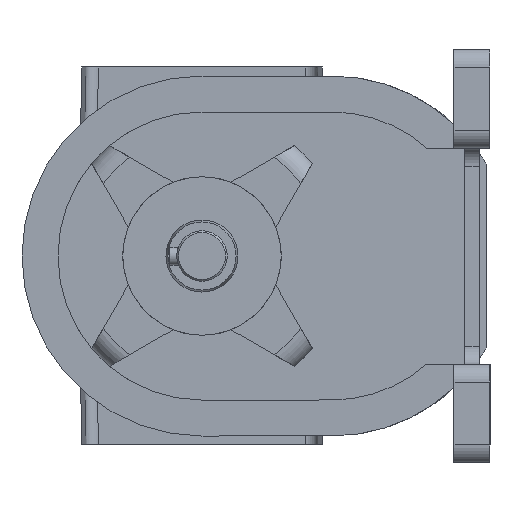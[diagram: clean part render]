
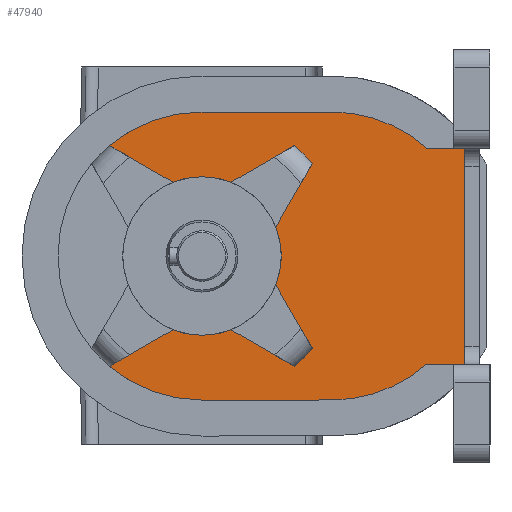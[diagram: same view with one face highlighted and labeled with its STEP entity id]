
A CAD part, left-side view. The second image highlights one B-rep face of the part: STEP entity #47940.
In plain terms, the highlighted planar face has unit normal (-1, 0, 0) as drawn and (0, 1, -0.026) by its records, which use the part's own axes.
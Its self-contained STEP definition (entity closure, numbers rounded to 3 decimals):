
#41410=CARTESIAN_POINT('',(-94.,680.965,
-210.424));
#41420=VERTEX_POINT('',#41410);
#43360=CARTESIAN_POINT('',(-94.,680.886,
-213.423));
#43370=VERTEX_POINT('',#43360);
#43700=CARTESIAN_POINT('',(-34.,680.886,
-213.423));
#43710=VERTEX_POINT('',#43700);
#43740=CARTESIAN_POINT('',(-75.28,680.886,
-213.423));
#43750=DIRECTION('',(-1.,0.,0.));
#43760=VECTOR('',#43750,1.);
#43770=LINE('',#43740,#43760);
#43780=EDGE_CURVE('',#43710,#43370,#43770,.T.);
#44140=CARTESIAN_POINT('',(-33.333,682.125,
-166.121));
#44150=VERTEX_POINT('',#44140);
#44330=CARTESIAN_POINT('',(-38.318,681.995,
-171.104));
#44340=VERTEX_POINT('',#44330);
#44370=CARTESIAN_POINT('',(-64.,682.797,
-140.448));
#44380=DIRECTION('',(0.,1.,
-0.026));
#44390=DIRECTION('',(-1.,0.,0.));
#44400=AXIS2_PLACEMENT_3D('',#44370,#44380,#44390);
#44410=CIRCLE('',#44400,40.);
#44420=EDGE_CURVE('',#44150,#44340,#44410,.T.);
#45750=CARTESIAN_POINT('',(-55.963,682.261,
-160.92));
#45760=VERTEX_POINT('',#45750);
#45790=CARTESIAN_POINT('',(-75.28,682.553,
-149.772));
#45800=DIRECTION('',(-0.866,0.013,
0.5));
#45810=VECTOR('',#45800,1.);
#45820=LINE('',#45790,#45810);
#45830=EDGE_CURVE('',#44340,#45760,#45820,.T.);
#46220=CARTESIAN_POINT('',(-54.5,682.121,
-166.283));
#46230=DIRECTION('',(0.,1.,
-0.026));
#46240=DIRECTION('',(-1.,0.,0.));
#46250=AXIS2_PLACEMENT_3D('',#46220,#46230,#46240);
#46260=PLANE('',#46250);
#46270=ORIENTED_EDGE('',*,*,#44420,.F.);
#46280=ORIENTED_EDGE('',*,*,#45830,.F.);
#46290=CARTESIAN_POINT('',(-64.,682.797,
-140.448));
#46300=DIRECTION('',(0.,1.,
-0.026));
#46310=DIRECTION('',(-1.,0.,0.));
#46320=AXIS2_PLACEMENT_3D('',#46290,#46300,#46310);
#46330=CIRCLE('',#46320,22.);
#46340=CARTESIAN_POINT('',(-72.037,682.261,
-160.92));
#46350=VERTEX_POINT('',#46340);
#46360=EDGE_CURVE('',#45760,#46350,#46330,.T.);
#46370=ORIENTED_EDGE('',*,*,#46360,.F.);
#46380=CARTESIAN_POINT('',(-75.28,682.212,
-162.792));
#46390=DIRECTION('',(-0.866,-0.013,
-0.5));
#46400=VECTOR('',#46390,1.);
#46410=LINE('',#46380,#46400);
#46420=CARTESIAN_POINT('',(-89.682,681.995,
-171.104));
#46430=VERTEX_POINT('',#46420);
#46440=EDGE_CURVE('',#46350,#46430,#46410,.T.);
#46450=ORIENTED_EDGE('',*,*,#46440,.F.);
#46460=CARTESIAN_POINT('',(-64.,682.797,
-140.448));
#46470=DIRECTION('',(0.,1.,
-0.026));
#46480=DIRECTION('',(-1.,0.,0.));
#46490=AXIS2_PLACEMENT_3D('',#46460,#46470,#46480);
#46500=CIRCLE('',#46490,40.);
#46510=CARTESIAN_POINT('',(-94.667,682.125,
-166.121));
#46520=VERTEX_POINT('',#46510);
#46530=EDGE_CURVE('',#46430,#46520,#46500,.T.);
#46540=ORIENTED_EDGE('',*,*,#46530,.F.);
#46550=CARTESIAN_POINT('',(-103.119,681.742,
-180.755));
#46560=DIRECTION('',(0.5,0.023,
0.866));
#46570=VECTOR('',#46560,1.);
#46580=LINE('',#46550,#46570);
#46590=CARTESIAN_POINT('',(-84.479,682.587,
-148.482));
#46600=VERTEX_POINT('',#46590);
#46610=EDGE_CURVE('',#46520,#46600,#46580,.T.);
#46620=ORIENTED_EDGE('',*,*,#46610,.F.);
#46630=CARTESIAN_POINT('',(-64.,682.797,
-140.448));
#46640=DIRECTION('',(0.,1.,
-0.026));
#46650=DIRECTION('',(-1.,0.,0.));
#46660=AXIS2_PLACEMENT_3D('',#46630,#46640,#46650);
#46670=CIRCLE('',#46660,22.);
#46680=CARTESIAN_POINT('',(-86.,682.797,
-140.448));
#46690=VERTEX_POINT('',#46680);
#46700=EDGE_CURVE('',#46600,#46690,#46670,.T.);
#46710=ORIENTED_EDGE('',*,*,#46700,.F.);
#46720=CARTESIAN_POINT('',(-84.479,683.008,
-132.414));
#46730=VERTEX_POINT('',#46720);
#46740=EDGE_CURVE('',#46690,#46730,#46670,.T.);
#46750=ORIENTED_EDGE('',*,*,#46740,.F.);
#46760=CARTESIAN_POINT('',(-56.56,681.742,
-180.755));
#46770=DIRECTION('',(-0.5,0.023,
0.866));
#46780=VECTOR('',#46770,1.);
#46790=LINE('',#46760,#46780);
#46800=CARTESIAN_POINT('',(-94.667,683.47,
-114.775));
#46810=VERTEX_POINT('',#46800);
#46820=EDGE_CURVE('',#46730,#46810,#46790,.T.);
#46830=ORIENTED_EDGE('',*,*,#46820,.F.);
#46840=CARTESIAN_POINT('',(-64.,682.797,
-140.448));
#46850=DIRECTION('',(0.,1.,
-0.026));
#46860=DIRECTION('',(-1.,0.,0.));
#46870=AXIS2_PLACEMENT_3D('',#46840,#46850,#46860);
#46880=CIRCLE('',#46870,40.);
#46890=CARTESIAN_POINT('',(-104.,682.797,
-140.448));
#46900=VERTEX_POINT('',#46890);
#46910=EDGE_CURVE('',#46900,#46810,#46880,.T.);
#46920=ORIENTED_EDGE('',*,*,#46910,.T.);
#46930=CARTESIAN_POINT('',(-104.,682.797,
-140.448));
#46940=DIRECTION('',(0.,-0.026,
-1.));
#46950=VECTOR('',#46940,1.);
#46960=LINE('',#46930,#46950);
#46970=CARTESIAN_POINT('',(-104.,681.855,
-176.436));
#46980=VERTEX_POINT('',#46970);
#46990=EDGE_CURVE('',#46900,#46980,#46960,.T.);
#47000=ORIENTED_EDGE('',*,*,#46990,.F.);
#47010=CARTESIAN_POINT('',(-64.,681.855,
-176.436));
#47020=DIRECTION('',(0.,1.,
-0.026));
#47030=DIRECTION('',(-1.,0.,0.));
#47040=AXIS2_PLACEMENT_3D('',#47010,#47020,#47030);
#47050=CIRCLE('',#47040,40.);
#47060=CARTESIAN_POINT('',(-94.,681.162,
-202.884));
#47070=VERTEX_POINT('',#47060);
#47080=EDGE_CURVE('',#47070,#46980,#47050,.T.);
#47090=ORIENTED_EDGE('',*,*,#47080,.T.);
#47100=CARTESIAN_POINT('',(-94.,681.742,
-180.755));
#47110=DIRECTION('',(0.,-0.026,
-1.));
#47120=VECTOR('',#47110,1.);
#47130=LINE('',#47100,#47120);
#47140=EDGE_CURVE('',#47070,#41420,#47130,.T.);
#47150=ORIENTED_EDGE('',*,*,#47140,.F.);
#47160=CARTESIAN_POINT('',(-94.,681.742,
-180.755));
#47170=DIRECTION('',(0.,0.026,
1.));
#47180=VECTOR('',#47170,1.);
#47190=LINE('',#47160,#47180);
#47200=EDGE_CURVE('',#43370,#41420,#47190,.T.);
#47210=ORIENTED_EDGE('',*,*,#47200,.T.);
#47220=ORIENTED_EDGE('',*,*,#43780,.T.);
#47230=CARTESIAN_POINT('',(-34.,681.742,
-180.755));
#47240=DIRECTION('',(0.,-0.026,
-1.));
#47250=VECTOR('',#47240,1.);
#47260=LINE('',#47230,#47250);
#47270=CARTESIAN_POINT('',(-34.,680.965,
-210.424));
#47280=VERTEX_POINT('',#47270);
#47290=EDGE_CURVE('',#47280,#43710,#47260,.T.);
#47300=ORIENTED_EDGE('',*,*,#47290,.T.);
#47310=CARTESIAN_POINT('',(-34.,681.742,
-180.755));
#47320=DIRECTION('',(0.,0.026,
1.));
#47330=VECTOR('',#47320,1.);
#47340=LINE('',#47310,#47330);
#47350=CARTESIAN_POINT('',(-34.,681.162,
-202.884));
#47360=VERTEX_POINT('',#47350);
#47370=EDGE_CURVE('',#47280,#47360,#47340,.T.);
#47380=ORIENTED_EDGE('',*,*,#47370,.F.);
#47390=CARTESIAN_POINT('',(-64.,681.855,
-176.436));
#47400=DIRECTION('',(0.,1.,
-0.026));
#47410=DIRECTION('',(-1.,0.,0.));
#47420=AXIS2_PLACEMENT_3D('',#47390,#47400,#47410);
#47430=CIRCLE('',#47420,40.);
#47440=CARTESIAN_POINT('',(-24.,681.855,
-176.436));
#47450=VERTEX_POINT('',#47440);
#47460=EDGE_CURVE('',#47450,#47360,#47430,.T.);
#47470=ORIENTED_EDGE('',*,*,#47460,.T.);
#47480=CARTESIAN_POINT('',(-24.,682.797,
-140.448));
#47490=DIRECTION('',(0.,-0.026,
-1.));
#47500=VECTOR('',#47490,1.);
#47510=LINE('',#47480,#47500);
#47520=CARTESIAN_POINT('',(-24.,682.797,
-140.448));
#47530=VERTEX_POINT('',#47520);
#47540=EDGE_CURVE('',#47530,#47450,#47510,.T.);
#47550=ORIENTED_EDGE('',*,*,#47540,.T.);
#47560=CARTESIAN_POINT('',(-64.,682.797,
-140.448));
#47570=DIRECTION('',(0.,1.,
-0.026));
#47580=DIRECTION('',(-1.,0.,0.));
#47590=AXIS2_PLACEMENT_3D('',#47560,#47570,#47580);
#47600=CIRCLE('',#47590,40.);
#47610=CARTESIAN_POINT('',(-33.333,683.47,
-114.775));
#47620=VERTEX_POINT('',#47610);
#47630=EDGE_CURVE('',#47620,#47530,#47600,.T.);
#47640=ORIENTED_EDGE('',*,*,#47630,.T.);
#47650=CARTESIAN_POINT('',(-71.44,681.742,
-180.755));
#47660=DIRECTION('',(0.5,0.023,
0.866));
#47670=VECTOR('',#47660,1.);
#47680=LINE('',#47650,#47670);
#47690=CARTESIAN_POINT('',(-43.52,683.008,
-132.414));
#47700=VERTEX_POINT('',#47690);
#47710=EDGE_CURVE('',#47700,#47620,#47680,.T.);
#47720=ORIENTED_EDGE('',*,*,#47710,.T.);
#47730=CARTESIAN_POINT('',(-64.,682.797,
-140.448));
#47740=DIRECTION('',(0.,1.,
-0.026));
#47750=DIRECTION('',(-1.,0.,0.));
#47760=AXIS2_PLACEMENT_3D('',#47730,#47740,#47750);
#47770=CIRCLE('',#47760,22.);
#47780=CARTESIAN_POINT('',(-42.,682.797,
-140.448));
#47790=VERTEX_POINT('',#47780);
#47800=EDGE_CURVE('',#47700,#47790,#47770,.T.);
#47810=ORIENTED_EDGE('',*,*,#47800,.F.);
#47820=CARTESIAN_POINT('',(-43.52,682.587,
-148.482));
#47830=VERTEX_POINT('',#47820);
#47840=EDGE_CURVE('',#47790,#47830,#47770,.T.);
#47850=ORIENTED_EDGE('',*,*,#47840,.F.);
#47860=CARTESIAN_POINT('',(-24.881,681.742,
-180.755));
#47870=DIRECTION('',(0.5,-0.023,
-0.866));
#47880=VECTOR('',#47870,1.);
#47890=LINE('',#47860,#47880);
#47900=EDGE_CURVE('',#47830,#44150,#47890,.T.);
#47910=ORIENTED_EDGE('',*,*,#47900,.F.);
#47920=EDGE_LOOP('',(#47910,#47850,#47810,#47720,#47640,#47550,#47470,
#47380,#47300,#47220,#47210,#47150,#47090,#47000,#46920,#46830,#46750,
#46710,#46620,#46540,#46450,#46370,#46280,#46270));
#47930=FACE_OUTER_BOUND('',#47920,.T.);
#47940=ADVANCED_FACE('',(#47930),#46260,.T.);
